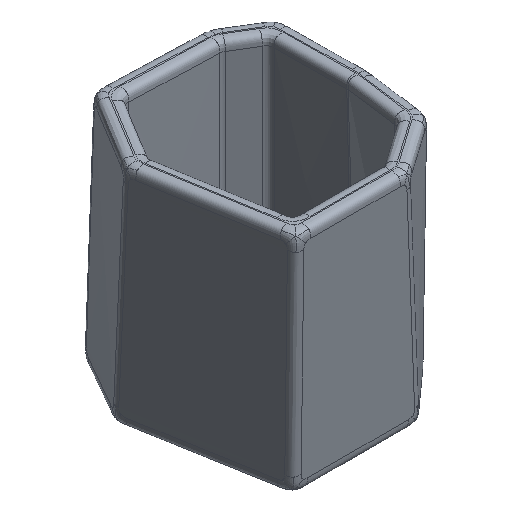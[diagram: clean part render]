
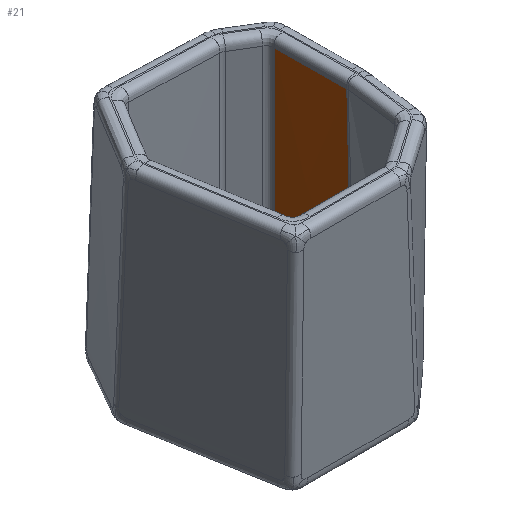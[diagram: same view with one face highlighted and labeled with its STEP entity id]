
A CAD part, isometric view. The second image highlights one B-rep face of the part: STEP entity #21.
In plain terms, the highlighted free-form (B-spline) face has degree [3, 3] with [5, 5] control points.
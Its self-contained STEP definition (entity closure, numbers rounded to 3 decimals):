
#21=ADVANCED_FACE('',(#432),#6131,.T.);
#432=FACE_OUTER_BOUND('',#843,.T.);
#843=EDGE_LOOP('',(#1279,#1280,#1281,#1282,#1283,#1284,#1285,#1286));
#1279=ORIENTED_EDGE('',*,*,#3391,.T.);
#1280=ORIENTED_EDGE('',*,*,#3669,.F.);
#1281=ORIENTED_EDGE('',*,*,#3679,.F.);
#1282=ORIENTED_EDGE('',*,*,#3431,.T.);
#1283=ORIENTED_EDGE('',*,*,#3664,.T.);
#1284=ORIENTED_EDGE('',*,*,#3654,.T.);
#1285=ORIENTED_EDGE('',*,*,#3386,.F.);
#1286=ORIENTED_EDGE('',*,*,#3461,.F.);
#3386=EDGE_CURVE('',#5490,#5494,#4461,.T.);
#3391=EDGE_CURVE('',#5489,#5493,#4466,.T.);
#3431=EDGE_CURVE('',#5491,#5492,#4506,.T.);
#3461=EDGE_CURVE('',#5489,#5490,#4536,.T.);
#3654=EDGE_CURVE('',#5669,#5494,#4729,.T.);
#3664=EDGE_CURVE('',#5492,#5669,#4739,.T.);
#3669=EDGE_CURVE('',#5676,#5493,#4744,.T.);
#3679=EDGE_CURVE('',#5491,#5676,#4754,.T.);
#4461=B_SPLINE_CURVE_WITH_KNOTS('',3,(#34562,#34563,#34564,#34565),
 .UNSPECIFIED.,.F.,.F.,(4,4),(14.476,296.64),
 .UNSPECIFIED.);
#4466=B_SPLINE_CURVE_WITH_KNOTS('',3,(#34586,#34587,#34588,#34589),
 .UNSPECIFIED.,.F.,.F.,(4,4),(14.085,296.993),
 .UNSPECIFIED.);
#4506=B_SPLINE_CURVE_WITH_KNOTS('',3,(#34784,#34785,#34786,#34787),
 .UNSPECIFIED.,.F.,.F.,(4,4),(17.019,107.462),
 .UNSPECIFIED.);
#4536=B_SPLINE_CURVE_WITH_KNOTS('',3,(#34936,#34937,#34938,#34939),
 .UNSPECIFIED.,.F.,.F.,(4,4),(7.635,118.34),
 .UNSPECIFIED.);
#4729=B_SPLINE_CURVE_WITH_KNOTS('',5,(#36162,#36163,#36164,#36165,#36166,
#36167,#36168,#36169,#36170,#36171),.UNSPECIFIED.,.F.,.F.,(6,1,1,1,1,6),
(0.,0.2,0.4,0.6,0.8,1.),.UNSPECIFIED.);
#4739=B_SPLINE_CURVE_WITH_KNOTS('',5,(#36262,#36263,#36264,#36265,#36266,
#36267,#36268,#36269,#36270,#36271),.UNSPECIFIED.,.F.,.F.,(6,1,1,1,1,6),
(-1.,-0.8,-0.6,-0.4,-0.2,0.),.UNSPECIFIED.);
#4744=B_SPLINE_CURVE_WITH_KNOTS('',5,(#36302,#36303,#36304,#36305,#36306,
#36307,#36308,#36309,#36310,#36311),.UNSPECIFIED.,.F.,.F.,(6,1,1,1,1,6),
(0.,0.2,0.4,0.6,0.8,1.),.UNSPECIFIED.);
#4754=B_SPLINE_CURVE_WITH_KNOTS('',5,(#36402,#36403,#36404,#36405,#36406,
#36407,#36408,#36409,#36410,#36411),.UNSPECIFIED.,.F.,.F.,(6,1,1,1,1,6),
(-1.,-0.8,-0.6,-0.4,-0.2,0.),.UNSPECIFIED.);
#5489=VERTEX_POINT('',#33840);
#5490=VERTEX_POINT('',#33841);
#5491=VERTEX_POINT('',#33842);
#5492=VERTEX_POINT('',#33843);
#5493=VERTEX_POINT('',#33844);
#5494=VERTEX_POINT('',#33845);
#5669=VERTEX_POINT('',#34020);
#5676=VERTEX_POINT('',#34027);
#6131=B_SPLINE_SURFACE_WITH_KNOTS('',3,3,((#6764,#6765,#6766,#6767,#6768),
(#6769,#6770,#6771,#6772,#6773),(#6774,#6775,#6776,#6777,#6778),(#6779,
#6780,#6781,#6782,#6783),(#6784,#6785,#6786,#6787,#6788)),.UNSPECIFIED.,
 .F.,.F.,.F.,(4,1,4),(4,1,4),(0.,176.631,353.263),(0.,
70.377,140.755),.UNSPECIFIED.);
#6764=CARTESIAN_POINT('',(458.223,80.986,8.001));
#6765=CARTESIAN_POINT('',(455.918,104.332,8.17));
#6766=CARTESIAN_POINT('',(451.311,151.023,8.506));
#6767=CARTESIAN_POINT('',(446.71,197.716,8.843));
#6768=CARTESIAN_POINT('',(444.411,221.062,9.011));
#6769=CARTESIAN_POINT('',(456.162,81.374,66.877));
#6770=CARTESIAN_POINT('',(454.195,104.666,67.046));
#6771=CARTESIAN_POINT('',(450.263,151.249,67.384));
#6772=CARTESIAN_POINT('',(446.336,197.833,67.722));
#6773=CARTESIAN_POINT('',(444.375,221.125,67.891));
#6774=CARTESIAN_POINT('',(452.057,82.162,184.63));
#6775=CARTESIAN_POINT('',(450.765,105.345,184.8));
#6776=CARTESIAN_POINT('',(448.182,151.712,185.14));
#6777=CARTESIAN_POINT('',(445.606,198.08,185.48));
#6778=CARTESIAN_POINT('',(444.319,221.263,185.65));
#6779=CARTESIAN_POINT('',(447.989,82.968,302.383));
#6780=CARTESIAN_POINT('',(447.371,106.043,302.554));
#6781=CARTESIAN_POINT('',(446.138,152.194,302.896));
#6782=CARTESIAN_POINT('',(444.911,198.344,303.239));
#6783=CARTESIAN_POINT('',(444.299,221.42,303.41));
#6784=CARTESIAN_POINT('',(445.964,83.374,361.261));
#6785=CARTESIAN_POINT('',(445.683,106.396,361.432));
#6786=CARTESIAN_POINT('',(445.125,152.438,361.775));
#6787=CARTESIAN_POINT('',(444.573,198.48,362.118));
#6788=CARTESIAN_POINT('',(444.299,221.502,362.29));
#33840=CARTESIAN_POINT('',(444.687,197.179,345.942));
#33841=CARTESIAN_POINT('',(446.453,86.49,345.558));
#33842=CARTESIAN_POINT('',(447.202,189.019,53.141));
#33843=CARTESIAN_POINT('',(455.092,98.917,53.446));
#33844=CARTESIAN_POINT('',(446.281,198.85,63.036));
#33845=CARTESIAN_POINT('',(455.648,88.813,63.533));
#34020=CARTESIAN_POINT('',(455.547,93.304,54.6));
#34027=CARTESIAN_POINT('',(446.616,195.567,54.867));
#34562=CARTESIAN_POINT('',(446.453,86.49,345.558));
#34563=CARTESIAN_POINT('',(449.591,87.253,251.552));
#34564=CARTESIAN_POINT('',(452.655,88.03,157.543));
#34565=CARTESIAN_POINT('',(455.648,88.813,63.533));
#34586=CARTESIAN_POINT('',(444.687,197.179,345.942));
#34587=CARTESIAN_POINT('',(445.248,197.73,251.64));
#34588=CARTESIAN_POINT('',(445.779,198.288,157.338));
#34589=CARTESIAN_POINT('',(446.281,198.85,63.036));
#34784=CARTESIAN_POINT('',(447.202,189.019,53.141));
#34785=CARTESIAN_POINT('',(449.836,158.986,53.243));
#34786=CARTESIAN_POINT('',(452.466,128.952,53.344));
#34787=CARTESIAN_POINT('',(455.092,98.917,53.446));
#34936=CARTESIAN_POINT('',(444.687,197.179,345.942));
#34937=CARTESIAN_POINT('',(445.276,160.283,345.814));
#34938=CARTESIAN_POINT('',(445.865,123.386,345.686));
#34939=CARTESIAN_POINT('',(446.453,86.49,345.558));
#36162=CARTESIAN_POINT('',(455.547,93.304,54.6));
#36163=CARTESIAN_POINT('',(455.572,92.95,54.781));
#36164=CARTESIAN_POINT('',(455.618,92.276,55.177));
#36165=CARTESIAN_POINT('',(455.675,91.37,55.876));
#36166=CARTESIAN_POINT('',(455.725,90.372,57.022));
#36167=CARTESIAN_POINT('',(455.745,89.472,58.807));
#36168=CARTESIAN_POINT('',(455.727,89.033,60.519));
#36169=CARTESIAN_POINT('',(455.695,88.862,61.964));
#36170=CARTESIAN_POINT('',(455.665,88.818,62.998));
#36171=CARTESIAN_POINT('',(455.648,88.813,63.533));
#36262=CARTESIAN_POINT('',(455.092,98.917,53.446));
#36263=CARTESIAN_POINT('',(455.115,98.648,53.447));
#36264=CARTESIAN_POINT('',(455.161,98.119,53.458));
#36265=CARTESIAN_POINT('',(455.227,97.351,53.501));
#36266=CARTESIAN_POINT('',(455.308,96.382,53.613));
#36267=CARTESIAN_POINT('',(455.399,95.259,53.844));
#36268=CARTESIAN_POINT('',(455.464,94.432,54.101));
#36269=CARTESIAN_POINT('',(455.507,93.852,54.335));
#36270=CARTESIAN_POINT('',(455.534,93.484,54.509));
#36271=CARTESIAN_POINT('',(455.547,93.304,54.6));
#36302=CARTESIAN_POINT('',(446.616,195.567,54.867));
#36303=CARTESIAN_POINT('',(446.591,195.832,55.059));
#36304=CARTESIAN_POINT('',(446.545,196.336,55.47));
#36305=CARTESIAN_POINT('',(446.482,197.011,56.168));
#36306=CARTESIAN_POINT('',(446.41,197.75,57.259));
#36307=CARTESIAN_POINT('',(446.344,198.408,58.893));
#36308=CARTESIAN_POINT('',(446.308,198.719,60.415));
#36309=CARTESIAN_POINT('',(446.291,198.832,61.678));
#36310=CARTESIAN_POINT('',(446.284,198.853,62.574));
#36311=CARTESIAN_POINT('',(446.281,198.85,63.036));
#36402=CARTESIAN_POINT('',(447.202,189.019,53.141));
#36403=CARTESIAN_POINT('',(447.173,189.351,53.14));
#36404=CARTESIAN_POINT('',(447.116,190.,53.152));
#36405=CARTESIAN_POINT('',(447.033,190.933,53.212));
#36406=CARTESIAN_POINT('',(446.931,192.092,53.375));
#36407=CARTESIAN_POINT('',(446.813,193.402,53.72));
#36408=CARTESIAN_POINT('',(446.728,194.338,54.108));
#36409=CARTESIAN_POINT('',(446.67,194.977,54.463));
#36410=CARTESIAN_POINT('',(446.634,195.375,54.728));
#36411=CARTESIAN_POINT('',(446.616,195.567,54.867));
